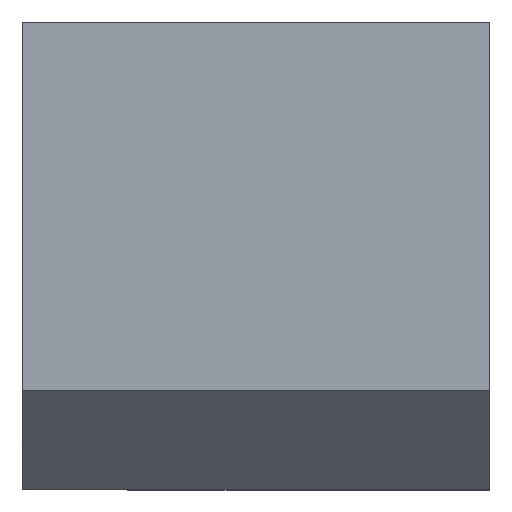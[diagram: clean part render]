
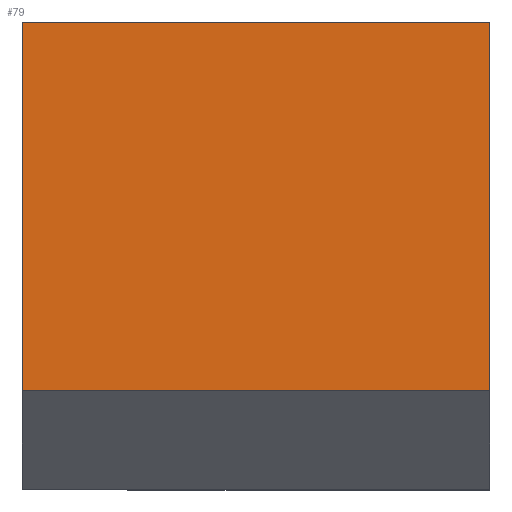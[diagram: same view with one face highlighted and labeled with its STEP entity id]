
A CAD part, top view. The second image highlights one B-rep face of the part: STEP entity #79.
In plain terms, the highlighted planar face has unit normal (0, 0, 1).
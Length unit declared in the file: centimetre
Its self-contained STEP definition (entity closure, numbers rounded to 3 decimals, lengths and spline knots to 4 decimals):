
#6 = PLANE ( 'NONE',  #201 ) ;
#20 = CARTESIAN_POINT ( 'NONE',  ( 1000., 1000., 1000. ) ) ;
#21 = EDGE_CURVE ( 'NONE', #121, #53, #399, .T. ) ;
#26 = LINE ( 'NONE', #20, #456 ) ;
#33 = EDGE_CURVE ( 'NONE', #78, #121, #122, .T. ) ;
#53 = VERTEX_POINT ( 'NONE', #224 ) ;
#74 = DIRECTION ( 'NONE',  ( -1., 0., 0. ) ) ;
#77 = CARTESIAN_POINT ( 'NONE',  ( 0., 1000., 1000. ) ) ;
#78 = VERTEX_POINT ( 'NONE', #373 ) ;
#79 = ADVANCED_FACE ( 'NONE', ( #409 ), #6, .T. ) ;
#80 = DIRECTION ( 'NONE',  ( 1., 0., 0. ) ) ;
#86 = ORIENTED_EDGE ( 'NONE', *, *, #21, .T. ) ;
#112 = ORIENTED_EDGE ( 'NONE', *, *, #33, .T. ) ;
#119 = EDGE_LOOP ( 'NONE', ( #112, #86, #271, #339 ) ) ;
#121 = VERTEX_POINT ( 'NONE', #126 ) ;
#122 = LINE ( 'NONE', #77, #354 ) ;
#123 = VECTOR ( 'NONE', #80, 100. ) ;
#126 = CARTESIAN_POINT ( 'NONE',  ( 0., 211.0547, 1000. ) ) ;
#158 = CARTESIAN_POINT ( 'NONE',  ( 0., 0., 1000. ) ) ;
#194 = CARTESIAN_POINT ( 'NONE',  ( 1000., 211.0547, 1000. ) ) ;
#201 = AXIS2_PLACEMENT_3D ( 'NONE', #158, #342, #306 ) ;
#215 = VECTOR ( 'NONE', #74, 100. ) ;
#216 = EDGE_CURVE ( 'NONE', #53, #352, #26, .T. ) ;
#224 = CARTESIAN_POINT ( 'NONE',  ( 1000., 211.0547, 1000. ) ) ;
#246 = CARTESIAN_POINT ( 'NONE',  ( 1000., 1000., 1000. ) ) ;
#257 = CARTESIAN_POINT ( 'NONE',  ( 0., 1000., 1000. ) ) ;
#271 = ORIENTED_EDGE ( 'NONE', *, *, #216, .T. ) ;
#285 = DIRECTION ( 'NONE',  ( 0., 1., 0. ) ) ;
#306 = DIRECTION ( 'NONE',  ( 1., 0., 0. ) ) ;
#339 = ORIENTED_EDGE ( 'NONE', *, *, #403, .T. ) ;
#342 = DIRECTION ( 'NONE',  ( 0., 0., 1. ) ) ;
#351 = DIRECTION ( 'NONE',  ( 0., -1., 0. ) ) ;
#352 = VERTEX_POINT ( 'NONE', #246 ) ;
#354 = VECTOR ( 'NONE', #351, 100. ) ;
#373 = CARTESIAN_POINT ( 'NONE',  ( 0., 1000., 1000. ) ) ;
#399 = LINE ( 'NONE', #194, #123 ) ;
#403 = EDGE_CURVE ( 'NONE', #352, #78, #460, .T. ) ;
#409 = FACE_OUTER_BOUND ( 'NONE', #119, .T. ) ;
#456 = VECTOR ( 'NONE', #285, 100. ) ;
#460 = LINE ( 'NONE', #257, #215 ) ;
